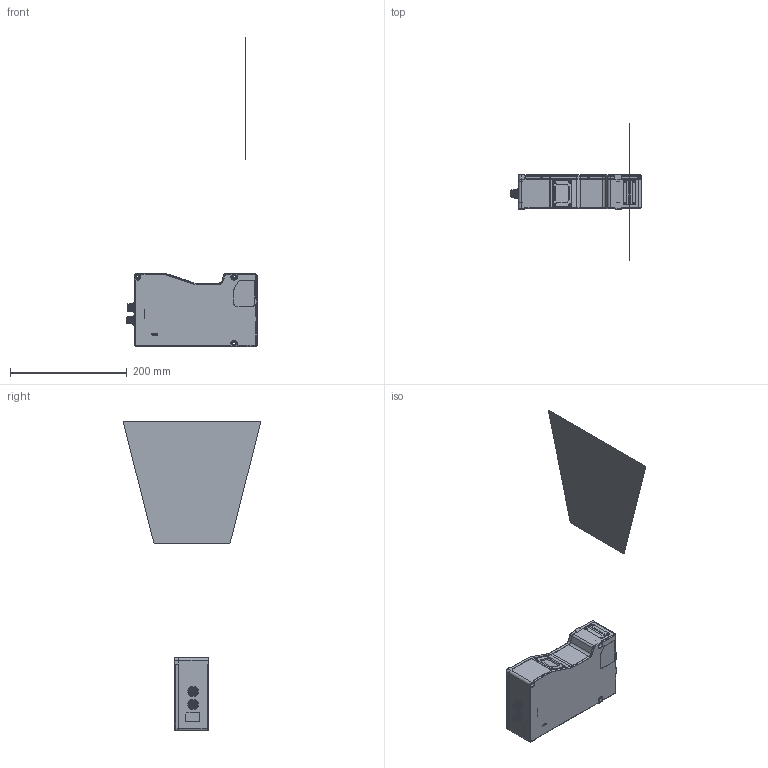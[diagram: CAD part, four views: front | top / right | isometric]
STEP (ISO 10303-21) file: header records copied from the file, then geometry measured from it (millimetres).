
FILE_DESCRIPTION((''),'2;1');
FILE_NAME('00-3300-ALL-01-03P-20250710','2025-07-22T10:26:56',('liudeting'),(''),'CREO PARAMETRIC BY PTC INC, 2020044','CREO PARAMETRIC BY PTC INC, 2020044','');
FILE_SCHEMA(('CONFIG_CONTROL_DESIGN'));
Products named in the file (1): 00-3300-ALL-01-03P-20250710
Bounding box: 224.1 x 236 x 530.5 mm (x, y, z)
Surface area: 135687.3 mm2 (no closed solid volume)
Topology: 0 solids, 32 shells, 836 faces, 2733 edges, 1846 vertices
Faces by surface type: cylinder 270, cone 220, plane 217, torus 84, bspline 45
Entity records: 50664 total; most frequent: CARTESIAN_POINT 27854, DIRECTION 4648, ORIENTED_EDGE 4432, EDGE_CURVE 2700, VERTEX_POINT 1846, AXIS2_PLACEMENT_3D 1747, VECTOR 1154, LINE 1154
